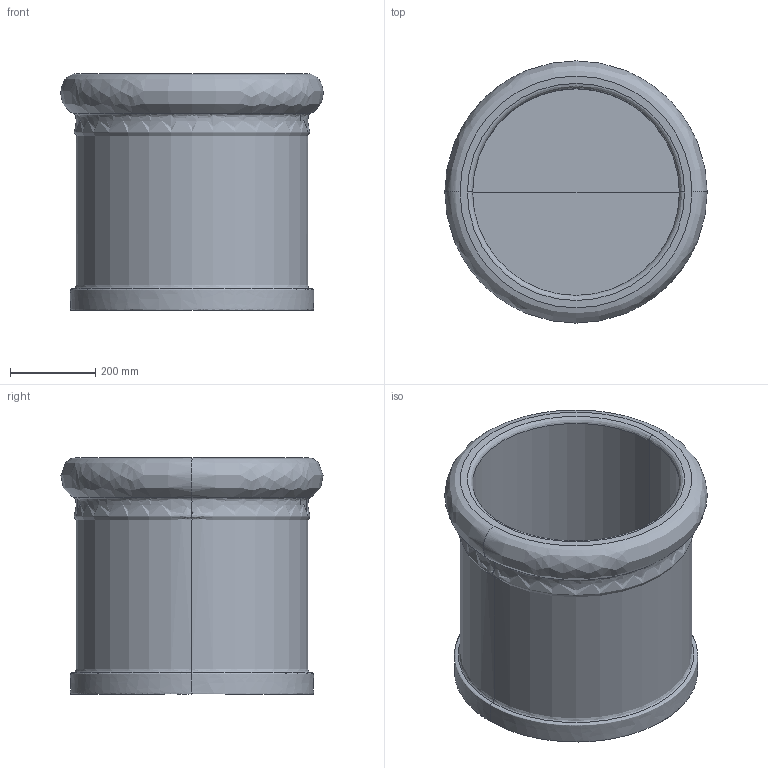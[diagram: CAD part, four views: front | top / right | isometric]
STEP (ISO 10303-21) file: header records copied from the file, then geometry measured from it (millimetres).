
FILE_DESCRIPTION(/* description */ (''),/* implementation_level */ '2;1');
FILE_NAME(/* name */ '62',/* time_stamp */ '2026-07-09T14:05:12+02:00',/* author */ (''),/* organization */ (''),/* preprocessor_version */ 'ST-DEVELOPER v19.2',/* originating_system */ 'Rhino 8.32',/* authorisation */ '');
FILE_SCHEMA (('CONFIG_CONTROL_DESIGN'));
Length unit declared in the file: millimetre
Products named in the file (1): Document
Bounding box: 614.78 x 614.76 x 554.98 mm (x, y, z)
Volume: 42847069.9 mm3; surface area: 2280562.5 mm2
Topology: 1 solids, 1 shells, 13 faces, 26 edges, 14 vertices
Faces by surface type: bspline 8, plane 3, cylinder 2
Entity records: 781 total; most frequent: CARTESIAN_POINT 473, ORIENTED_EDGE 48, DIRECTION 37, EDGE_CURVE 24, AXIS2_PLACEMENT_3D 21, EDGE_LOOP 14, TRIMMED_CURVE 14, CIRCLE 14
